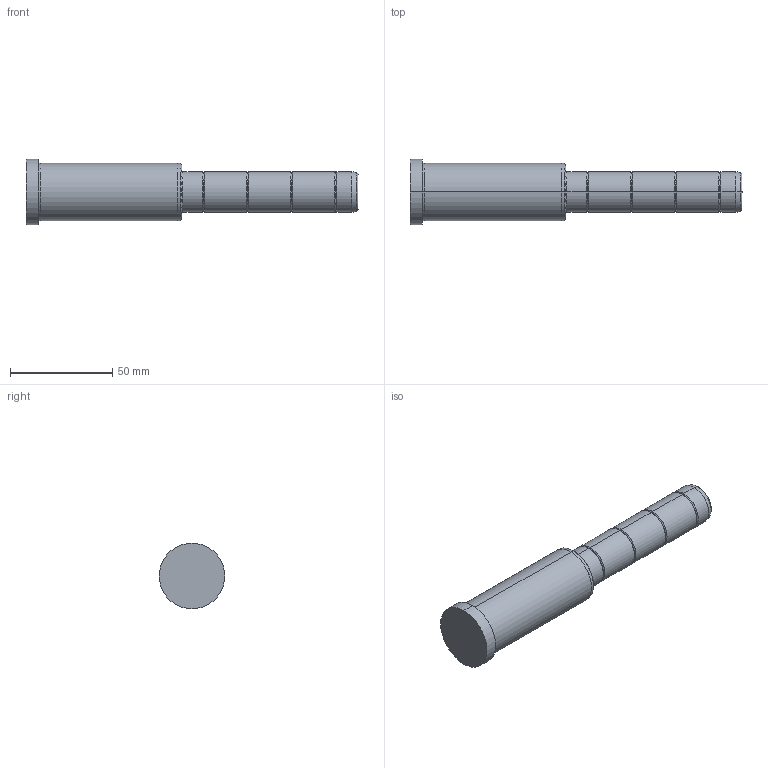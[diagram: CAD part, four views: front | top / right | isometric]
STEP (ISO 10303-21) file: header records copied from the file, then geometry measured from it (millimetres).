
FILE_DESCRIPTION( ( 'STEP AP203' ), '1' );
FILE_NAME( 'C:/Projects/D02 - 20x76x86.step', '2003-01-04T13:49:57', ( ' ' ), ( ' ' ), 'XStep 1.0', ' ', ' ' );
FILE_SCHEMA( ( 'CONFIG_CONTROL_DESIGN' ) );
Length unit declared in the file: metre
Products named in the file (1): 1
Bounding box: 162 x 32 x 32 mm (x, y, z)
Volume: 74820.6 mm3; surface area: 13807.1 mm2
Topology: 1 solids, 1 shells, 48 faces, 94 edges, 52 vertices
Faces by surface type: bspline 26, revolution 22
Entity records: 1523 total; most frequent: CARTESIAN_POINT 617, ORIENTED_EDGE 188, DIRECTION 150, EDGE_CURVE 94, AXIS2_PLACEMENT_3D 53, EDGE_LOOP 52, VERTEX_POINT 52, CIRCLE 52
